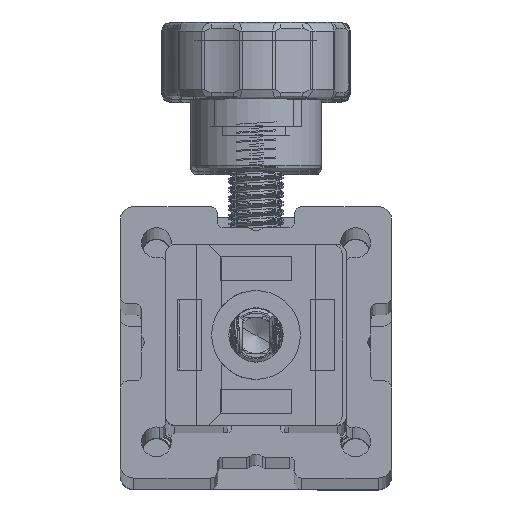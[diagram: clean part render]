
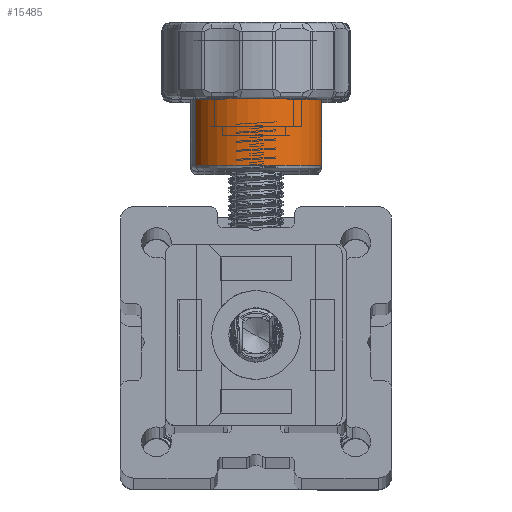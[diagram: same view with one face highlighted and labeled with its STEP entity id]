
A CAD part, top view. The second image highlights one B-rep face of the part: STEP entity #15485.
In plain terms, the highlighted cylindrical face has radius 7.25 mm (diameter 14.5 mm), a partial arc.
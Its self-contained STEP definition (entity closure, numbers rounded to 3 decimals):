
#873 = CARTESIAN_POINT ( 'NONE',  ( 0., 2., -7.25 ) ) ;
#1136 = CYLINDRICAL_SURFACE ( 'NONE', #72484, 7.25 ) ;
#2388 = VERTEX_POINT ( 'NONE', #59364 ) ;
#2564 = EDGE_LOOP ( 'NONE', ( #33458, #49540, #11326, #25800 ) ) ;
#3313 = DIRECTION ( 'NONE',  ( 0., -1., 0. ) ) ;
#4645 = CARTESIAN_POINT ( 'NONE',  ( 0., 15.8, 7.25 ) ) ;
#7652 = CARTESIAN_POINT ( 'NONE',  ( 0., 0., 0. ) ) ;
#9822 = CARTESIAN_POINT ( 'NONE',  ( 0., 0., 7.25 ) ) ;
#11326 = ORIENTED_EDGE ( 'NONE', *, *, #15451, .F. ) ;
#13457 = DIRECTION ( 'NONE',  ( 0., -1., 0. ) ) ;
#13871 = DIRECTION ( 'NONE',  ( 0., 0., -1. ) ) ;
#15451 = EDGE_CURVE ( 'NONE', #50804, #52306, #64725, .T. ) ;
#15485 = ADVANCED_FACE ( 'NONE', ( #49488 ), #1136, .T. ) ;
#17945 = DIRECTION ( 'NONE',  ( 0., -1., 0. ) ) ;
#18820 = VECTOR ( 'NONE', #3313, 1000. ) ;
#24160 = VECTOR ( 'NONE', #17945, 1000. ) ;
#25800 = ORIENTED_EDGE ( 'NONE', *, *, #77864, .F. ) ;
#25956 = DIRECTION ( 'NONE',  ( 0., -1., 0. ) ) ;
#32054 = DIRECTION ( 'NONE',  ( 0., 0., -1. ) ) ;
#32770 = AXIS2_PLACEMENT_3D ( 'NONE', #45480, #13457, #13871 ) ;
#33458 = ORIENTED_EDGE ( 'NONE', *, *, #36488, .T. ) ;
#36488 = EDGE_CURVE ( 'NONE', #2388, #75007, #60019, .T. ) ;
#41462 = EDGE_CURVE ( 'NONE', #75007, #52306, #78442, .T. ) ;
#45006 = CARTESIAN_POINT ( 'NONE',  ( 0., 2., 0. ) ) ;
#45480 = CARTESIAN_POINT ( 'NONE',  ( 0., 15.8, 0. ) ) ;
#49488 = FACE_OUTER_BOUND ( 'NONE', #2564, .T. ) ;
#49540 = ORIENTED_EDGE ( 'NONE', *, *, #41462, .T. ) ;
#50804 = VERTEX_POINT ( 'NONE', #873 ) ;
#52306 = VERTEX_POINT ( 'NONE', #71815 ) ;
#55650 = AXIS2_PLACEMENT_3D ( 'NONE', #45006, #75851, #32054 ) ;
#59364 = CARTESIAN_POINT ( 'NONE',  ( 0., 15.8, -7.25 ) ) ;
#60019 = CIRCLE ( 'NONE', #32770, 7.25 ) ;
#64725 = CIRCLE ( 'NONE', #55650, 7.25 ) ;
#67047 = CARTESIAN_POINT ( 'NONE',  ( 0., 0., -7.25 ) ) ;
#71815 = CARTESIAN_POINT ( 'NONE',  ( 0., 2., 7.25 ) ) ;
#72484 = AXIS2_PLACEMENT_3D ( 'NONE', #7652, #25956, #74262 ) ;
#73111 = LINE ( 'NONE', #67047, #24160 ) ;
#74262 = DIRECTION ( 'NONE',  ( 0., 0., -1. ) ) ;
#75007 = VERTEX_POINT ( 'NONE', #4645 ) ;
#75851 = DIRECTION ( 'NONE',  ( 0., -1., 0. ) ) ;
#77864 = EDGE_CURVE ( 'NONE', #2388, #50804, #73111, .T. ) ;
#78442 = LINE ( 'NONE', #9822, #18820 ) ;
